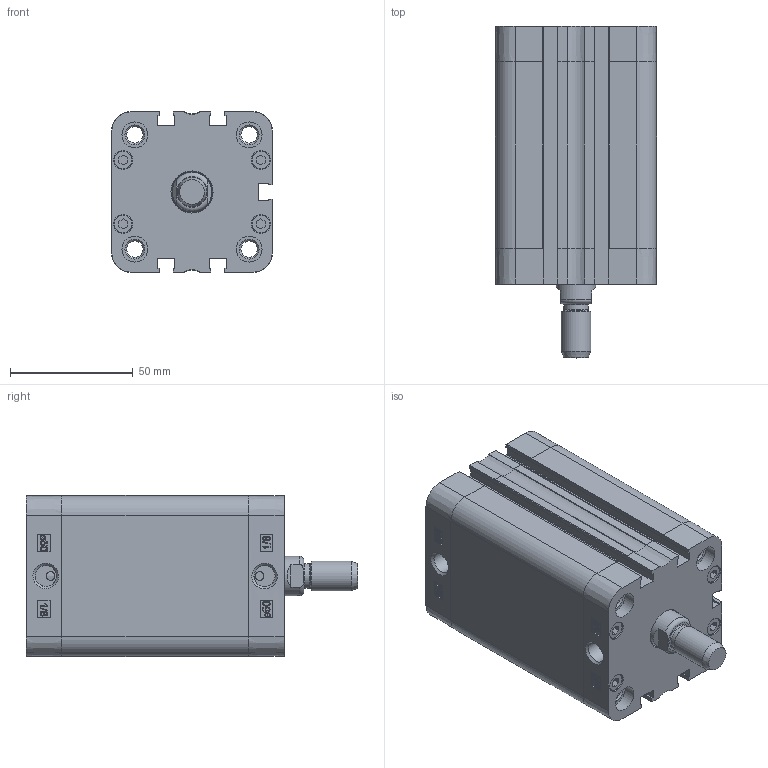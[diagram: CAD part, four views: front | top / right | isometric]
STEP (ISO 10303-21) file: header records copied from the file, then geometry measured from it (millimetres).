
FILE_DESCRIPTION((''),'2;1');
FILE_NAME('T:\Archivio Inventor\- CATALOGHI 2012\SERIE P - NUOVA\PDM\PDM050\PDM050.---.GS.M\PDM050.060.GS.M.stp','2013-02-01T12:19:50',('Administrator'),(''),'Autodesk Inventor 2012','Autodesk Inventor 2012','');
FILE_SCHEMA(('CONFIG_CONTROL_DESIGN'));
Length unit declared in the file: millimetre
Products named in the file (1): PDM050.060.GS.M
Bounding box: 65.5 x 135 x 65.5 mm (x, y, z)
Volume: 223092.1 mm3; surface area: 87408.1 mm2
Topology: 2 solids, 6 shells, 780 faces, 1860 edges, 1167 vertices
Faces by surface type: plane 335, bspline 196, cylinder 131, torus 56, cone 46, sphere 16
Full cylindrical faces by diameter (mm): 3.5 x2, 5.2 x4, 6.647 x8, 7.5 x8, 7.7 x8, 8.047 x4, 8.566 x2, 10 x1, 10.5 x8, 12 x2, 16 x1, 16.5 x1, 50 x1, 52.4 x1, 52.6 x1
Entity records: 25595 total; most frequent: CARTESIAN_POINT 8480, ORIENTED_EDGE 3488, DIRECTION 2866, EDGE_CURVE 1744, VERTEX_POINT 1148, AXIS2_PLACEMENT_3D 978, EDGE_LOOP 962, VECTOR 910
